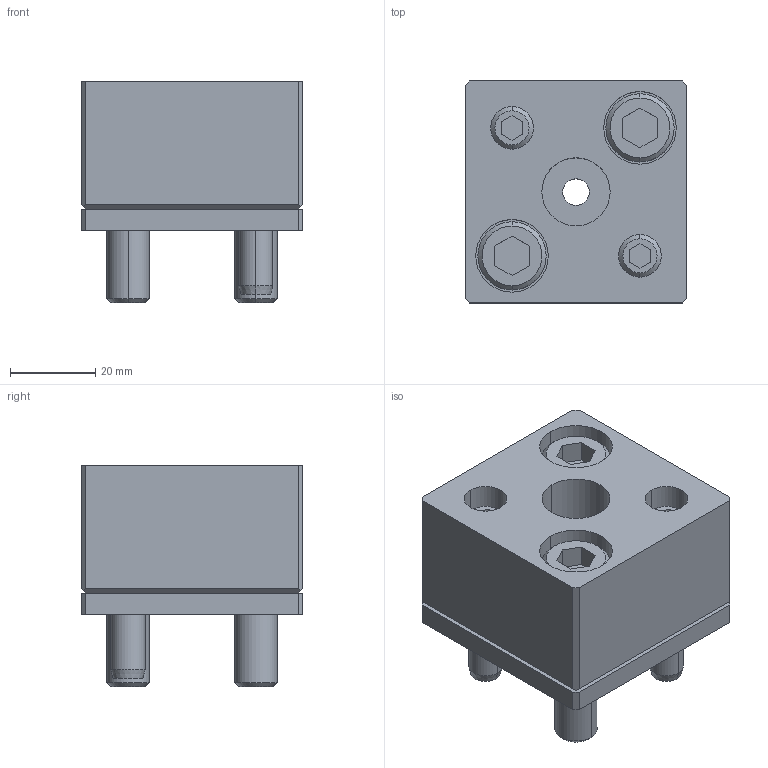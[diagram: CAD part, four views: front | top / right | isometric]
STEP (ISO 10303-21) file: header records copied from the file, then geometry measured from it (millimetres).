
FILE_DESCRIPTION(/* description */ (''),/* implementation_level */ '2;1');
FILE_NAME(/* name */ '3d_sr-ap16_03063_r00.stp',/* time_stamp */ '2011-01-10T14:10:00+09:00',/* author */ ('MISUMI'),/* organization */ (''),/* preprocessor_version */ 'ST-DEVELOPER v11',/* originating_system */ 'UGS - NX 5.0',/* authorisation */ '');
FILE_SCHEMA (('CONFIG_CONTROL_DESIGN'));
Length unit declared in the file: millimetre
Products named in the file (1): 3d_sr-ap16_03063_r00
Bounding box: 52 x 52 x 52 mm (x, y, z)
Volume: 86662.8 mm3; surface area: 30138.7 mm2
Topology: 8 solids, 8 shells, 159 faces, 358 edges, 230 vertices
Faces by surface type: plane 77, cylinder 56, cone 26
Entity records: 4588 total; most frequent: DIRECTION 812, CARTESIAN_POINT 790, ORIENTED_EDGE 716, EDGE_CURVE 358, AXIS2_PLACEMENT_3D 298, VERTEX_POINT 230, LINE 216, VECTOR 216
